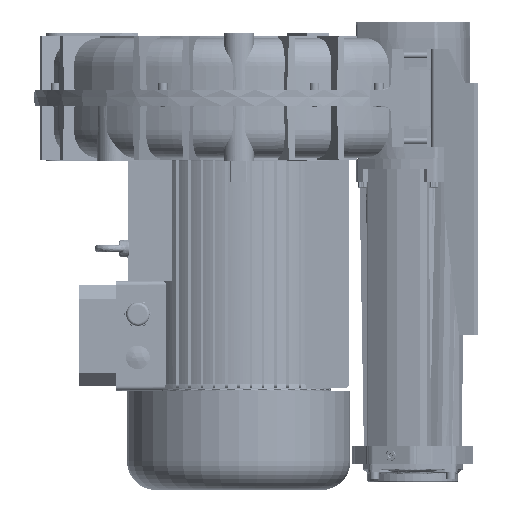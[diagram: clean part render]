
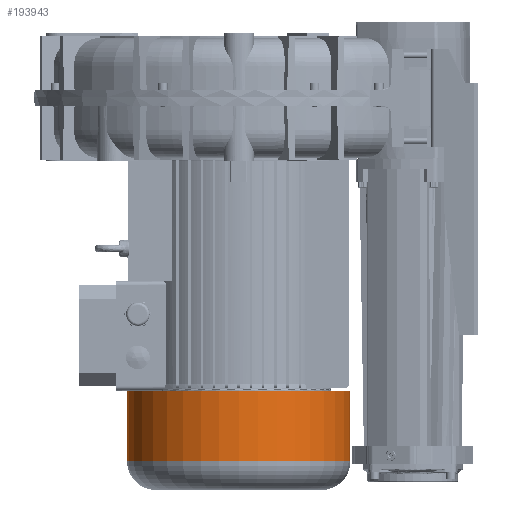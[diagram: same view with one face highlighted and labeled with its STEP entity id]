
A CAD part, left-side view. The second image highlights one B-rep face of the part: STEP entity #193943.
In plain terms, the highlighted cylindrical face has radius 155 mm (diameter 310 mm), a full revolution.
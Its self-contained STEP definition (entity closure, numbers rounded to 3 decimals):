
#19899 = ORIENTED_EDGE ( 'NONE', *, *, #109138, .T. ) ;
#28627 = DIRECTION ( 'NONE',  ( 0., 0., 1. ) ) ;
#34121 = CIRCLE ( 'NONE', #203404, 155. ) ;
#35259 = CIRCLE ( 'NONE', #49939, 155. ) ;
#39393 = EDGE_LOOP ( 'NONE', ( #19899 ) ) ;
#44734 = VERTEX_POINT ( 'NONE', #274927 ) ;
#48364 = CARTESIAN_POINT ( 'NONE',  ( 0., 0., -262. ) ) ;
#49939 = AXIS2_PLACEMENT_3D ( 'NONE', #157818, #86618, #92555 ) ;
#81902 = VERTEX_POINT ( 'NONE', #172867 ) ;
#86618 = DIRECTION ( 'NONE',  ( 0., 0., -1. ) ) ;
#91594 = DIRECTION ( 'NONE',  ( 0., 0., -1. ) ) ;
#92555 = DIRECTION ( 'NONE',  ( 0., -1., 0. ) ) ;
#109138 = EDGE_CURVE ( 'NONE', #81902, #81902, #35259, .T. ) ;
#116501 = DIRECTION ( 'NONE',  ( 0., -1., 0. ) ) ;
#132113 = ORIENTED_EDGE ( 'NONE', *, *, #215398, .T. ) ;
#140077 = DIRECTION ( 'NONE',  ( 0., -1., 0. ) ) ;
#157818 = CARTESIAN_POINT ( 'NONE',  ( 0., 0., -165. ) ) ;
#162806 = CARTESIAN_POINT ( 'NONE',  ( 0., 0., -302. ) ) ;
#172867 = CARTESIAN_POINT ( 'NONE',  ( 0., -155., -165. ) ) ;
#193943 = ADVANCED_FACE ( 'NONE', ( #299099, #277873 ), #230962, .T. ) ;
#203404 = AXIS2_PLACEMENT_3D ( 'NONE', #48364, #28627, #116501 ) ;
#215398 = EDGE_CURVE ( 'NONE', #44734, #44734, #34121, .T. ) ;
#230603 = AXIS2_PLACEMENT_3D ( 'NONE', #162806, #91594, #140077 ) ;
#230962 = CYLINDRICAL_SURFACE ( 'NONE', #230603, 155. ) ;
#274927 = CARTESIAN_POINT ( 'NONE',  ( 0., -155., -262. ) ) ;
#277873 = FACE_OUTER_BOUND ( 'NONE', #39393, .T. ) ;
#296696 = EDGE_LOOP ( 'NONE', ( #132113 ) ) ;
#299099 = FACE_OUTER_BOUND ( 'NONE', #296696, .T. ) ;
